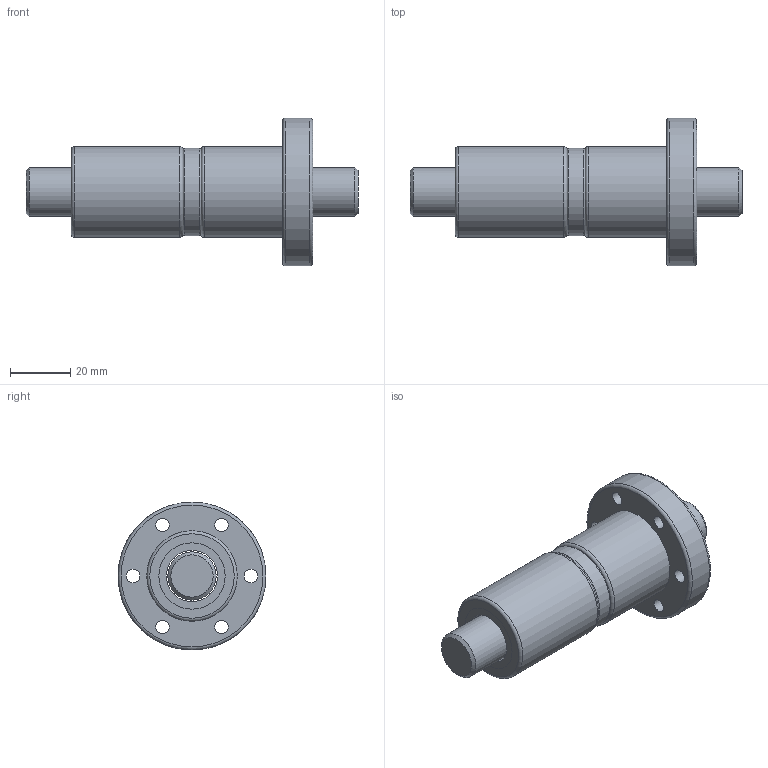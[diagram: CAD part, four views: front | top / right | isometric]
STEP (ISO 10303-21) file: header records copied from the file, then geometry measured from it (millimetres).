
FILE_DESCRIPTION(/* description */ (''),/* implementation_level */ '2;1');
FILE_NAME(/* name */ 'DFI1604',/* time_stamp */ '2007-10-26T11:48:31+08:00',/* author */ (''),/* organization */ (''),/* preprocessor_version */ 'ST-DEVELOPER v9',/* originating_system */ 'EDS PLM SOLUTIONS - UNIGRAPHICS NX 1.0',/* authorisation */ '');
FILE_SCHEMA (('CONFIG_CONTROL_DESIGN'));
Length unit declared in the file: millimetre
Products named in the file (1): FANNDA0400fi
Bounding box: 110 x 49 x 49 mm (x, y, z)
Volume: 69952.7 mm3; surface area: 26058.8 mm2
Topology: 6 solids, 6 shells, 56 faces, 112 edges, 71 vertices
Faces by surface type: cylinder 26, plane 21, torus 7, cone 2
Full cylindrical faces by diameter (mm): 4.5 x6, 8 x6, 16 x1, 17 x5, 22 x4, 29 x1, 30 x2, 49 x1
Entity records: 1320 total; most frequent: DIRECTION 246, CARTESIAN_POINT 183, ORIENTED_EDGE 132, AXIS2_PLACEMENT_3D 123, EDGE_LOOP 116, FACE_BOUND 93, EDGE_CURVE 66, CIRCLE 66
